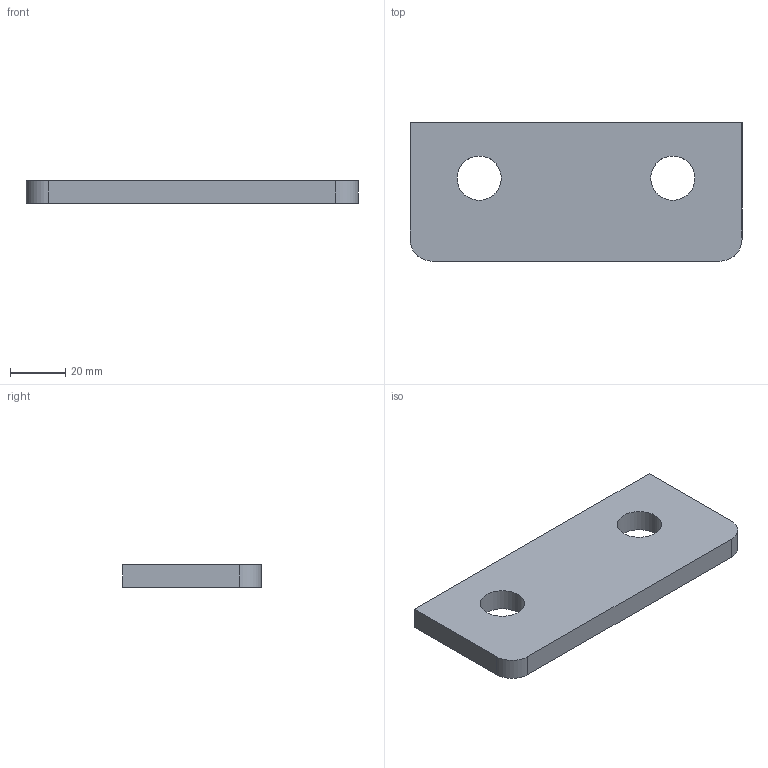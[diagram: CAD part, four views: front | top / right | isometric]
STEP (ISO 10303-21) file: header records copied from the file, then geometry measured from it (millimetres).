
FILE_DESCRIPTION(/* description */ (''),/* implementation_level */ '2;1');
FILE_NAME(/* name */ 'Pos149-Plaatwerk D= 8-S235JRG2-6st',/* time_stamp */ '2024-08-06T13:37:44+02:00',/* author */ (''),/* organization */ (''),/* preprocessor_version */ 'ST-DEVELOPER v16.5',/* originating_system */ 'HiCAD 2024 2901.2 Build 361',/* authorisation */ '');
FILE_SCHEMA (('AUTOMOTIVE_DESIGN { 1 0 10303 214 1 1 1 1 }'));
Length unit declared in the file: millimetre
Products named in the file (1): Pos149-Plaatwerk D= 8-S235JRG2-6st
Bounding box: 120 x 50 x 8 mm (x, y, z)
Volume: 44563.3 mm3; surface area: 14610.1 mm2
Topology: 1 solids, 1 shells, 10 faces, 26 edges, 18 vertices
Faces by surface type: plane 6, cylinder 4
Full cylindrical faces by diameter (mm): 16 x2
Entity records: 532 total; most frequent: DIRECTION 50, CARTESIAN_POINT 48, PRESENTATION_STYLE_ASSIGNMENT 45, COLOUR_RGB 45, DRAUGHTING_PRE_DEFINED_CURVE_FONT 44, CURVE_STYLE 44, OVER_RIDING_STYLED_ITEM 44, ORIENTED_EDGE 44
